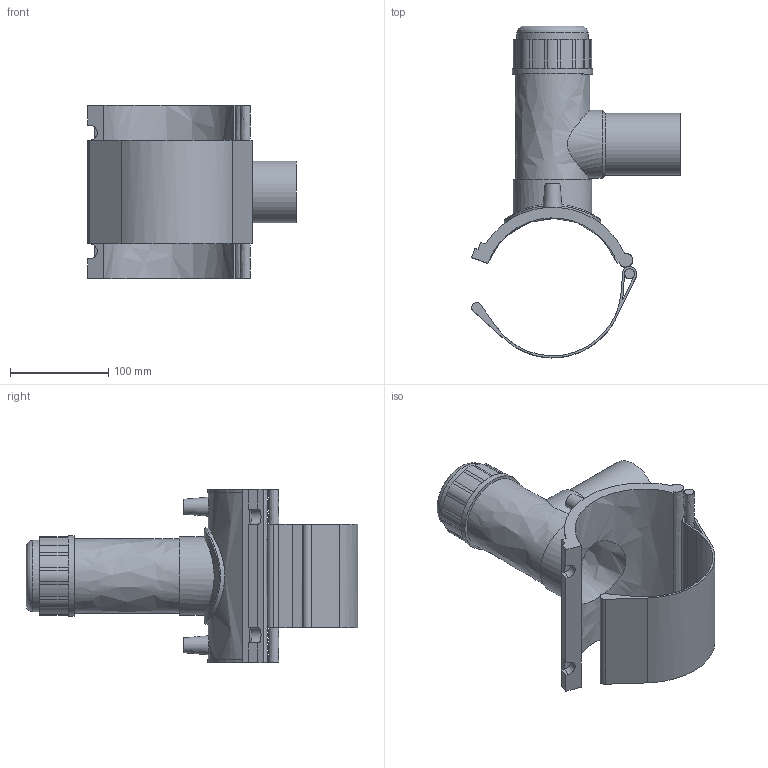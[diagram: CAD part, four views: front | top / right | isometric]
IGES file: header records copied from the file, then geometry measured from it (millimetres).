
Global section: file name: 491304140063; native system: Autodesk Inventor 2019; preprocessor: unknown; author: KIM; date: 20230323.112838; units: millimetre
Bounding box: 212.22 x 337.1 x 176 mm (x, y, z)
Volume: 890297 mm3; surface area: 255672.7 mm2
Topology: 2 solids, 2 shells, 108 faces, 282 edges, 193 vertices
Faces by surface type: bspline 108
